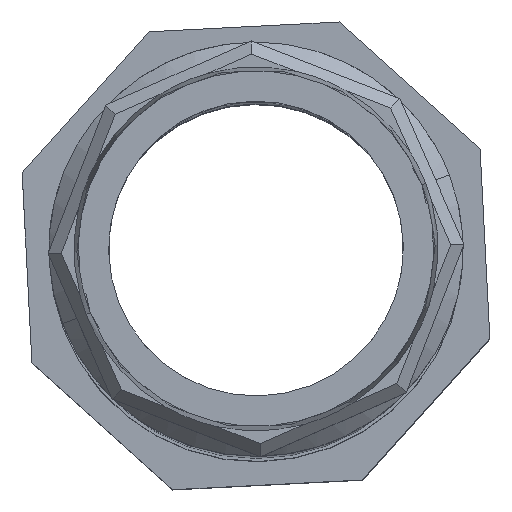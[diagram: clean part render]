
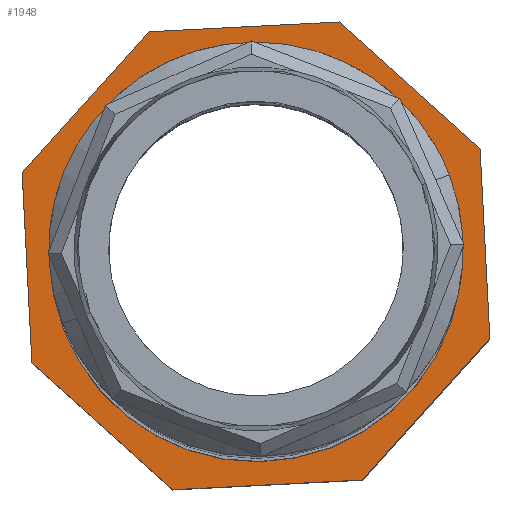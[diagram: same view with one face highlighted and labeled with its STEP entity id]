
A CAD part, top view. The second image highlights one B-rep face of the part: STEP entity #1948.
In plain terms, the highlighted planar face has unit normal (0, 0, 1).
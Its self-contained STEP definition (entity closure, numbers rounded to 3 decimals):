
#293 = CARTESIAN_POINT ( 'NONE',  ( 0., 0., -27.298 ) ) ;
#294 = DIRECTION ( 'NONE',  ( 0., 0., -1. ) ) ;
#295 = DIRECTION ( 'NONE',  ( -1., -0.018, 0. ) ) ;
#435 = VECTOR ( 'NONE', #2538, 1000. ) ;
#438 = VECTOR ( 'NONE', #2531, 1000. ) ;
#441 = VECTOR ( 'NONE', #2528, 1000. ) ;
#481 = VECTOR ( 'NONE', #2625, 1000. ) ;
#495 = VECTOR ( 'NONE', #2627, 1000. ) ;
#498 = VECTOR ( 'NONE', #2637, 1000. ) ;
#499 = CIRCLE ( 'NONE', #502, 30. ) ;
#502 = AXIS2_PLACEMENT_3D ( 'NONE', #2634, #2635, #2636 ) ;
#504 = AXIS2_PLACEMENT_3D ( 'NONE', #752, #764, #765 ) ;
#511 = VECTOR ( 'NONE', #2653, 1000. ) ;
#512 = VECTOR ( 'NONE', #2650, 1000. ) ;
#752 = CARTESIAN_POINT ( 'NONE',  ( 35.813, 39.688, -27.298 ) ) ;
#757 = FACE_OUTER_BOUND ( 'NONE', #3221, .T. ) ;
#761 = FACE_BOUND ( 'NONE', #3223, .T. ) ;
#762 = PLANE ( 'NONE',  #504 ) ;
#764 = DIRECTION ( 'NONE',  ( 0., 0., -1. ) ) ;
#765 = DIRECTION ( 'NONE',  ( -1., -0.018, 0. ) ) ;
#1743 = EDGE_CURVE ( 'NONE', #3031, #3054, #2517, .T. ) ;
#1744 = EDGE_CURVE ( 'NONE', #3043, #3031, #2529, .T. ) ;
#1747 = EDGE_CURVE ( 'NONE', #3079, #3043, #2536, .T. ) ;
#1776 = EDGE_CURVE ( 'NONE', #3034, #3058, #2618, .T. ) ;
#1777 = EDGE_CURVE ( 'NONE', #3058, #3029, #2605, .T. ) ;
#1779 = EDGE_CURVE ( 'NONE', #2973, #2967, #499, .T. ) ;
#1780 = EDGE_CURVE ( 'NONE', #3029, #3079, #2633, .T. ) ;
#1784 = EDGE_CURVE ( 'NONE', #3042, #3034, #2648, .T. ) ;
#1785 = EDGE_CURVE ( 'NONE', #3054, #3042, #2642, .T. ) ;
#1948 = ADVANCED_FACE ( 'NONE', ( #761, #757 ), #762, .F. ) ;
#2064 = EDGE_CURVE ( 'NONE', #2967, #2973, #4130, .T. ) ;
#2517 = LINE ( 'NONE', #2527, #441 ) ;
#2527 = CARTESIAN_POINT ( 'NONE',  ( 36.948, 17.574, -27.298 ) ) ;
#2528 = DIRECTION ( 'NONE',  ( 0.051, -0.999, 0. ) ) ;
#2529 = LINE ( 'NONE', #2530, #438 ) ;
#2530 = CARTESIAN_POINT ( 'NONE',  ( 13.699, 38.553, -27.298 ) ) ;
#2531 = DIRECTION ( 'NONE',  ( 0.742, -0.67, 0. ) ) ;
#2536 = LINE ( 'NONE', #2537, #435 ) ;
#2537 = CARTESIAN_POINT ( 'NONE',  ( -17.574, 36.948, -27.298 ) ) ;
#2538 = DIRECTION ( 'NONE',  ( 0.999, 0.051, 0. ) ) ;
#2605 = LINE ( 'NONE', #2626, #495 ) ;
#2618 = LINE ( 'NONE', #2624, #481 ) ;
#2624 = CARTESIAN_POINT ( 'NONE',  ( -13.699, -38.553, -27.298 ) ) ;
#2625 = DIRECTION ( 'NONE',  ( -0.742, 0.67, 0. ) ) ;
#2626 = CARTESIAN_POINT ( 'NONE',  ( -36.948, -17.574, -27.298 ) ) ;
#2627 = DIRECTION ( 'NONE',  ( -0.051, 0.999, 0. ) ) ;
#2629 = CARTESIAN_POINT ( 'NONE',  ( -38.553, 13.699, -27.298 ) ) ;
#2633 = LINE ( 'NONE', #2629, #498 ) ;
#2634 = CARTESIAN_POINT ( 'NONE',  ( 0., 0., -27.298 ) ) ;
#2635 = DIRECTION ( 'NONE',  ( 0., 0., -1. ) ) ;
#2636 = DIRECTION ( 'NONE',  ( -1., -0.018, 0. ) ) ;
#2637 = DIRECTION ( 'NONE',  ( 0.67, 0.742, 0. ) ) ;
#2642 = LINE ( 'NONE', #2651, #511 ) ;
#2648 = LINE ( 'NONE', #2649, #512 ) ;
#2649 = CARTESIAN_POINT ( 'NONE',  ( 17.574, -36.948, -27.298 ) ) ;
#2650 = DIRECTION ( 'NONE',  ( -0.999, -0.051, 0. ) ) ;
#2651 = CARTESIAN_POINT ( 'NONE',  ( 38.553, -13.699, -27.298 ) ) ;
#2653 = DIRECTION ( 'NONE',  ( -0.67, -0.742, 0. ) ) ;
#2967 = VERTEX_POINT ( 'NONE', #3735 ) ;
#2973 = VERTEX_POINT ( 'NONE', #3741 ) ;
#3029 = VERTEX_POINT ( 'NONE', #3749 ) ;
#3031 = VERTEX_POINT ( 'NONE', #3750 ) ;
#3034 = VERTEX_POINT ( 'NONE', #3744 ) ;
#3042 = VERTEX_POINT ( 'NONE', #3759 ) ;
#3043 = VERTEX_POINT ( 'NONE', #3760 ) ;
#3054 = VERTEX_POINT ( 'NONE', #3771 ) ;
#3058 = VERTEX_POINT ( 'NONE', #3775 ) ;
#3079 = VERTEX_POINT ( 'NONE', #3796 ) ;
#3221 = EDGE_LOOP ( 'NONE', ( #4417, #4418, #4419, #4420, #4421, #4422, #4423, #4424 ) ) ;
#3223 = EDGE_LOOP ( 'NONE', ( #4415, #4416 ) ) ;
#3735 = CARTESIAN_POINT ( 'NONE',  ( 29.995, 0.554, -27.298 ) ) ;
#3741 = CARTESIAN_POINT ( 'NONE',  ( -29.995, -0.554, -27.298 ) ) ;
#3744 = CARTESIAN_POINT ( 'NONE',  ( -13.699, -38.553, -27.298 ) ) ;
#3749 = CARTESIAN_POINT ( 'NONE',  ( -38.553, 13.699, -27.298 ) ) ;
#3750 = CARTESIAN_POINT ( 'NONE',  ( 36.948, 17.574, -27.298 ) ) ;
#3759 = CARTESIAN_POINT ( 'NONE',  ( 17.574, -36.948, -27.298 ) ) ;
#3760 = CARTESIAN_POINT ( 'NONE',  ( 13.699, 38.553, -27.298 ) ) ;
#3771 = CARTESIAN_POINT ( 'NONE',  ( 38.553, -13.699, -27.298 ) ) ;
#3775 = CARTESIAN_POINT ( 'NONE',  ( -36.948, -17.574, -27.298 ) ) ;
#3796 = CARTESIAN_POINT ( 'NONE',  ( -17.574, 36.948, -27.298 ) ) ;
#4124 = AXIS2_PLACEMENT_3D ( 'NONE', #293, #294, #295 ) ;
#4130 = CIRCLE ( 'NONE', #4124, 30. ) ;
#4415 = ORIENTED_EDGE ( 'NONE', *, *, #1779, .T. ) ;
#4416 = ORIENTED_EDGE ( 'NONE', *, *, #2064, .T. ) ;
#4417 = ORIENTED_EDGE ( 'NONE', *, *, #1747, .F. ) ;
#4418 = ORIENTED_EDGE ( 'NONE', *, *, #1780, .F. ) ;
#4419 = ORIENTED_EDGE ( 'NONE', *, *, #1777, .F. ) ;
#4420 = ORIENTED_EDGE ( 'NONE', *, *, #1776, .F. ) ;
#4421 = ORIENTED_EDGE ( 'NONE', *, *, #1784, .F. ) ;
#4422 = ORIENTED_EDGE ( 'NONE', *, *, #1785, .F. ) ;
#4423 = ORIENTED_EDGE ( 'NONE', *, *, #1743, .F. ) ;
#4424 = ORIENTED_EDGE ( 'NONE', *, *, #1744, .F. ) ;
